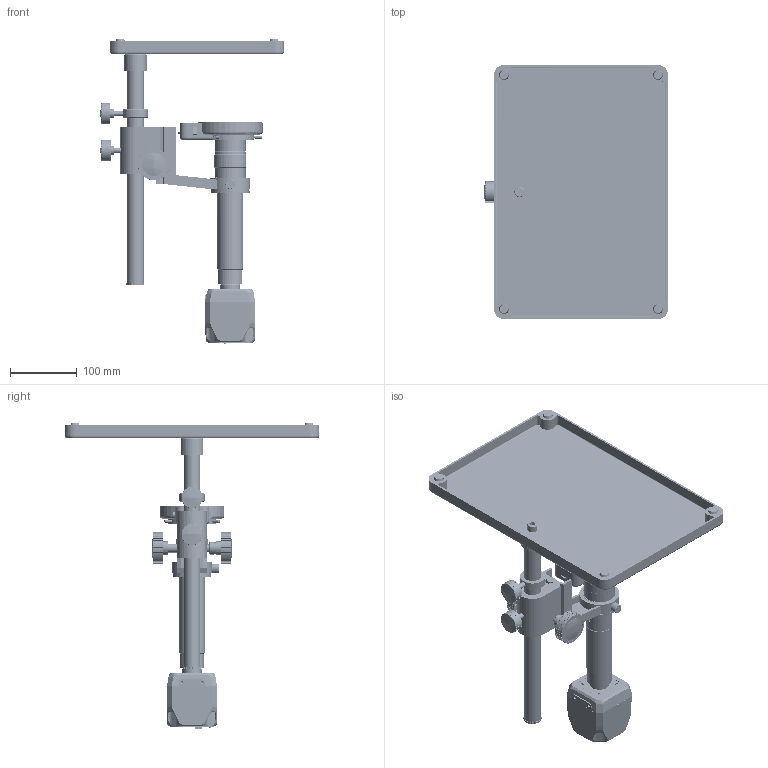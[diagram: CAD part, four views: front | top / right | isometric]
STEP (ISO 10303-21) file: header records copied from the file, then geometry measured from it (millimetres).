
FILE_DESCRIPTION((''),'2;1');
FILE_NAME('HDMI3040C0001_ASM_1_ASM_1_ASM','2026-01-21T11:31:32',('gengdawei'),(''),'CREO PARAMETRIC BY PTC INC, 2020044','CREO PARAMETRIC BY PTC INC, 2020044','');
FILE_SCHEMA(('CONFIG_CONTROL_DESIGN'));
Products named in the file (82): ADMICE72HQW4_1_1_1_1_1_1_1_1; ADMICE72HQW4_2_1_1_1_1_1_1_1; ADMICE72HQW4_3_1_1_1_1_1_1_1; ADMICE72HQW4_4_1_1_1_1_1_1_1; ADMICE72HQW4_5_1_1_1_1_1_1_1; ADMICE72HQW4_6_1_1_1_1_1_1_1; ADMICE72HQW4_7_1_1_1_1_1_1_1; ADMICE72HQW4_8_1_1_1_1_1_1_1; ADMICE72HQW4_9_1_1_1_1_1_1_1; ADMICE72HQW4_10_1_1_1_1_1_1_1; ADMICE72HQW4_11_1_1_1_1_1_1_1; ADMICE72HQW4_ASM_1_1_ASM_1_AS_2_ASM; B1000_ASM_1_1_ASM_1_ASM_1_ASM_2_ASM; BREP_43_1_1_1_1_1_1_1; BREP_32_1_1_1_1_1_1_1; BREP_54_1_1_1_1_1_1_1; BREP_46_1_1_1_1_1_1_1; BREP_35_1_1_1_1_1_1_1; BREP_62_1_1_1_1_1_1_1; BREP_51_1_1_1_1_1_1_1; BREP_55_1_1_1_1_1_1_1; BREP_44_1_1_1_1_1_1_1; BREP_41_1_1_1_1_1_1_1; BREP_31_1_1_1_1_1_1_1; BREP_58_1_1_1_1_1_1_1; BREP_38_1_1_1_1_1_1_1; BREP_60_1_1_1_1_1_1_1; BREP_57_1_1_1_1_1_1_1; BREP_40_1_1_1_1_1_1_1; BREP_48_1_1_1_1_1_1_1; BREP_45_1_1_1_1_1_1_1; BREP_53_1_1_1_1_1_1_1; BREP_37_1_1_1_1_1_1_1; BREP_33_1_1_1_1_1_1_1; BREP_50_1_1_1_1_1_1_1; ADMI3E458BAH_ASM_1_1_ASM_1_AS_2_ASM; B100002_ASM_1_1_ASM_1_ASM_1_A_1_ASM; ADMICE72HQWJ_1_1_1_1_1_1_1_1; ADMICE72HQWJ_2_1_1_1_1_1_1_1; ADMICE72HQWJ_3_1_1_1_1_1_1_1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
Assembly tree (85 placements, depth 8):
  HDMI3040C0001_ASM_1_ASM_1_ASM
    HDMI0001_ASM_1_ASM_1_ASM_1_ASM
      HDMI00_ASM_1_ASM_1_ASM_1_ASM_1_ASM
        HDMI00_ASM_ASM_1_ASM_1_ASM_1__1_ASM
          HDMI00_ASM_1_1_ASM_1_ASM_1_AS_1_ASM
            B1000_ASM_1_1_ASM_1_ASM_1_ASM_2_ASM
              ADMICE72HQW4_ASM_1_1_ASM_1_AS_2_ASM
                ADMICE72HQW4_1_1_1_1_1_1_1_1
                ADMICE72HQW4_2_1_1_1_1_1_1_1
                ADMICE72HQW4_3_1_1_1_1_1_1_1
                ADMICE72HQW4_4_1_1_1_1_1_1_1
                ADMICE72HQW4_5_1_1_1_1_1_1_1
                ADMICE72HQW4_6_1_1_1_1_1_1_1
                ADMICE72HQW4_7_1_1_1_1_1_1_1
                ADMICE72HQW4_8_1_1_1_1_1_1_1
                ADMICE72HQW4_9_1_1_1_1_1_1_1
                ADMICE72HQW4_10_1_1_1_1_1_1_1
                ADMICE72HQW4_11_1_1_1_1_1_1_1
            B100002_ASM_1_1_ASM_1_ASM_1_A_1_ASM
              ADMI3E458BAH_ASM_1_1_ASM_1_AS_2_ASM
                BREP_43_1_1_1_1_1_1_1
                BREP_32_1_1_1_1_1_1_1
                BREP_54_1_1_1_1_1_1_1
                BREP_46_1_1_1_1_1_1_1
                BREP_35_1_1_1_1_1_1_1
                BREP_62_1_1_1_1_1_1_1
                BREP_51_1_1_1_1_1_1_1
                BREP_55_1_1_1_1_1_1_1
                BREP_44_1_1_1_1_1_1_1
                BREP_41_1_1_1_1_1_1_1
                BREP_31_1_1_1_1_1_1_1
                BREP_58_1_1_1_1_1_1_1
                BREP_38_1_1_1_1_1_1_1
                BREP_60_1_1_1_1_1_1_1
                BREP_57_1_1_1_1_1_1_1
                BREP_40_1_1_1_1_1_1_1
                BREP_48_1_1_1_1_1_1_1
                BREP_45_1_1_1_1_1_1_1
                BREP_53_1_1_1_1_1_1_1
                BREP_37_1_1_1_1_1_1_1
                BREP_33_1_1_1_1_1_1_1
                BREP_50_1_1_1_1_1_1_1
            LED-56S00_ASM_1_1_ASM_1_ASM_1_1_ASM
              ADMICE72HQWJ_ASM_1_1_ASM_1_AS_2_ASM
                ADMICE72HQWJ_1_1_1_1_1_1_1_1
                ADMICE72HQWJ_2_1_1_1_1_1_1_1
                ADMICE72HQWJ_3_1_1_1_1_1_1_1
                ADMICE72HQWJ_4_1_1_1_1_1_1_1
    MZ45A-1X0002_ASM_1_ASM_1_ASM
      ADMI570012KA_ASM_1_ASM_1_ASM
        ADMI570012KA_1_1_1
        ADMI570012KA_2_1_1
        ADMI570012KA_3_1_1
        ADMI570012KA_4_1_1
        ADMI570012KA_5_1_1
        ADMI570012KA_6_1_1
        ADMI570012KA_7_1_1
        ADMI570012KA_8_1_1
        ADMI570012KA_9_1_1
    4K_ASM_1_ASM_1_ASM
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Bounding box: 275 x 380 x 457.03 mm (x, y, z)
Volume: 1195414.3 mm3; surface area: 632742.7 mm2
Topology: 63 solids, 106 shells, 9799 faces, 27010 edges, 17485 vertices
Faces by surface type: plane 6173, cylinder 2594, cone 569, bspline 321, torus 89, sphere 38, extrusion 15
Entity records: 335190 total; most frequent: CARTESIAN_POINT 88208, ORIENTED_EDGE 52678, DIRECTION 49293, EDGE_CURVE 26408, VECTOR 18381, LINE 18366, VERTEX_POINT 17134, AXIS2_PLACEMENT_3D 15456
